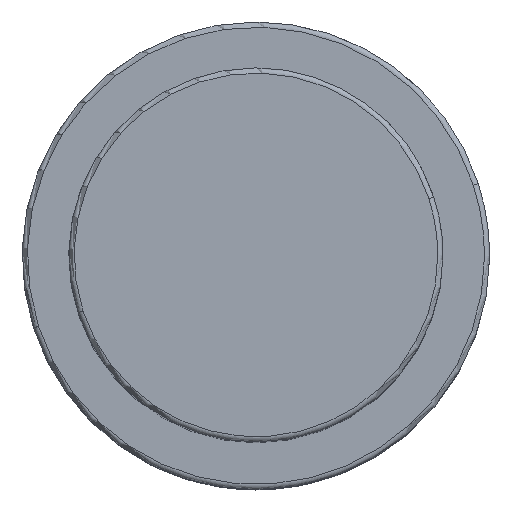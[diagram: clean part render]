
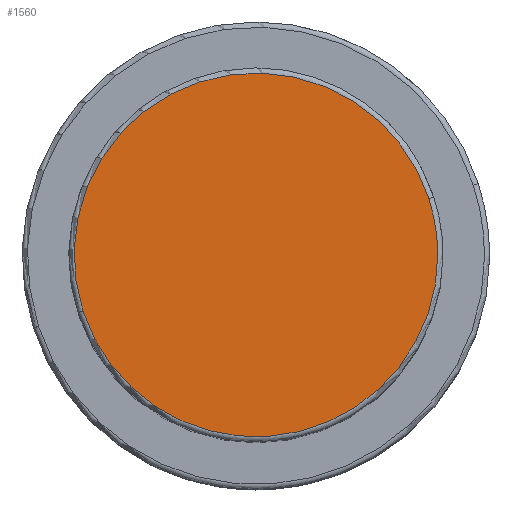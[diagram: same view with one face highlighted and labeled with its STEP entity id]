
A CAD part, top view. The second image highlights one B-rep face of the part: STEP entity #1560.
In plain terms, the highlighted planar face has unit normal (0, 0, 1).
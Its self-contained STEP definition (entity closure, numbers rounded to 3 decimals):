
#1493=CARTESIAN_POINT('',(16.643,5.408,73.0));
#1494=VERTEX_POINT('',#1493);
#1512=CARTESIAN_POINT('',(-16.643,-5.408,73.0));
#1513=VERTEX_POINT('',#1512);
#1521=CARTESIAN_POINT('',(0.0,0.0,73.0));
#1522=DIRECTION('',(0.0,0.0,1.0));
#1523=DIRECTION('',(1.0,0.0,0.0));
#1524=AXIS2_PLACEMENT_3D('',#1521,#1522,#1523);
#1525=CIRCLE('',#1524,17.5);
#1526=EDGE_CURVE('no 1771',#1494,#1513,#1525,.T.);
#1536=CARTESIAN_POINT('',(17.5,0.0,73.0));
#1537=VERTEX_POINT('',#1536);
#1538=CARTESIAN_POINT('',(0.0,0.0,73.0));
#1539=DIRECTION('',(0.0,0.0,1.0));
#1540=DIRECTION('',(1.0,0.0,0.0));
#1541=AXIS2_PLACEMENT_3D('',#1538,#1539,#1540);
#1542=CIRCLE('',#1541,17.5);
#1543=EDGE_CURVE('no 1780',#1537,#1494,#1542,.T.);
#1544=ORIENTED_EDGE('',*,*,#1543,.T.);
#1545=ORIENTED_EDGE('',*,*,#1526,.T.);
#1546=CARTESIAN_POINT('',(0.0,0.0,73.0));
#1547=DIRECTION('',(0.0,0.0,1.0));
#1548=DIRECTION('',(1.0,0.0,0.0));
#1549=AXIS2_PLACEMENT_3D('',#1546,#1547,#1548);
#1550=CIRCLE('',#1549,17.5);
#1551=EDGE_CURVE('no 1786',#1513,#1537,#1550,.T.);
#1552=ORIENTED_EDGE('',*,*,#1551,.T.);
#1553=EDGE_LOOP('',(#1544,#1545,#1552));
#1554=FACE_OUTER_BOUND('',#1553,.T.);
#1555=CARTESIAN_POINT('',(0.0,0.0,73.0));
#1556=DIRECTION('',(0.0,0.0,1.0));
#1557=DIRECTION('',(1.0,0.0,0.0));
#1558=AXIS2_PLACEMENT_3D('',#1555,#1556,#1557);
#1559=PLANE('',#1558);
#1560=ADVANCED_FACE('no 1773',(#1554),#1559,.T.);
